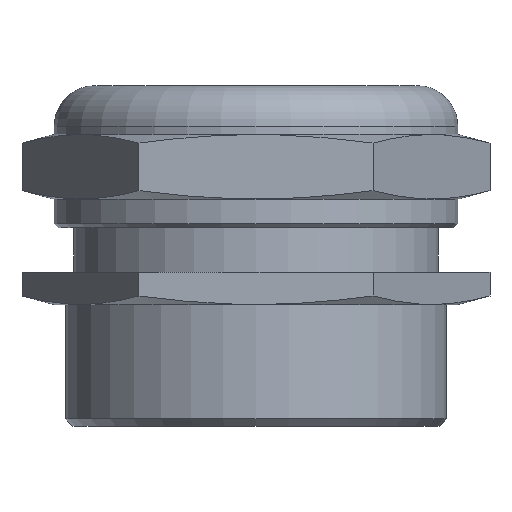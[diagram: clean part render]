
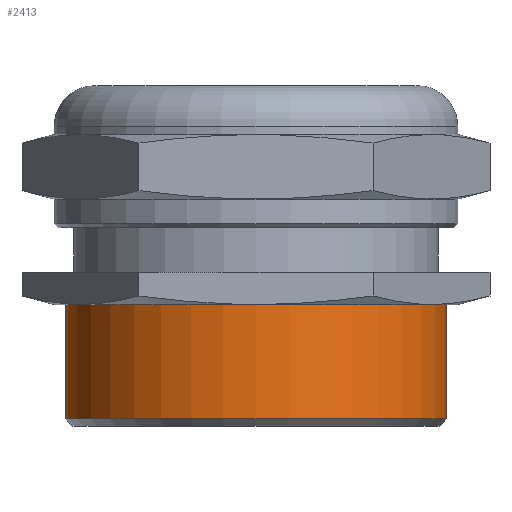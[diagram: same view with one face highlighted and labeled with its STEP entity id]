
A CAD part, left-side view. The second image highlights one B-rep face of the part: STEP entity #2413.
In plain terms, the highlighted cylindrical face has radius 23.5 mm (diameter 47 mm), a partial arc.
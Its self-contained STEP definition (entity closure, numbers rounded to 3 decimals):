
#1295 = CARTESIAN_POINT ( 'NONE',  ( 0., 23.5, 0.9 ) ) ;
#1300 = CARTESIAN_POINT ( 'NONE',  ( 0., -23.5, 15. ) ) ;
#1305 = DIRECTION ( 'NONE',  ( 0., 0., -1. ) ) ;
#1306 = VECTOR ( 'NONE', #1305, 1000. ) ;
#1307 = CARTESIAN_POINT ( 'NONE',  ( 0., -23.5, 0. ) ) ;
#1308 = LINE ( 'NONE', #1307, #1306 ) ;
#1317 = CARTESIAN_POINT ( 'NONE',  ( 0., -23.5, 0.9 ) ) ;
#1325 = CARTESIAN_POINT ( 'NONE',  ( 0., 23.5, 15. ) ) ;
#1715 = LINE ( 'NONE', #1732, #1731 ) ;
#1730 = DIRECTION ( 'NONE',  ( 0., 0., -1. ) ) ;
#1731 = VECTOR ( 'NONE', #1730, 1000. ) ;
#1732 = CARTESIAN_POINT ( 'NONE',  ( 0., 23.5, 0. ) ) ;
#1798 = DIRECTION ( 'NONE',  ( 0., 1., 0. ) ) ;
#1799 = DIRECTION ( 'NONE',  ( 0., 0., -1. ) ) ;
#1800 = AXIS2_PLACEMENT_3D ( 'NONE', #1806, #1799, #1798 ) ;
#1801 = CIRCLE ( 'NONE', #1800, 23.5 ) ;
#1806 = CARTESIAN_POINT ( 'NONE',  ( 0., 0., 15. ) ) ;
#1827 = DIRECTION ( 'NONE',  ( 0., 1., 0. ) ) ;
#1828 = DIRECTION ( 'NONE',  ( 0., 0., -1. ) ) ;
#1829 = CARTESIAN_POINT ( 'NONE',  ( 0., 0., 0. ) ) ;
#1830 = AXIS2_PLACEMENT_3D ( 'NONE', #1829, #1828, #1827 ) ;
#1840 = CYLINDRICAL_SURFACE ( 'NONE', #1830, 23.5 ) ;
#1841 = FACE_OUTER_BOUND ( 'NONE', #2414, .T. ) ;
#1877 = DIRECTION ( 'NONE',  ( 0., 1., 0. ) ) ;
#1897 = DIRECTION ( 'NONE',  ( 0., 0., -1. ) ) ;
#1898 = CARTESIAN_POINT ( 'NONE',  ( 0., 0., 0.9 ) ) ;
#1899 = AXIS2_PLACEMENT_3D ( 'NONE', #1898, #1897, #1877 ) ;
#1900 = CIRCLE ( 'NONE', #1899, 23.5 ) ;
#2321 = VERTEX_POINT ( 'NONE', #1295 ) ;
#2332 = VERTEX_POINT ( 'NONE', #1300 ) ;
#2334 = EDGE_CURVE ( 'NONE', #2332, #2336, #1308, .T. ) ;
#2336 = VERTEX_POINT ( 'NONE', #1317 ) ;
#2338 = VERTEX_POINT ( 'NONE', #1325 ) ;
#2357 = EDGE_CURVE ( 'NONE', #2338, #2321, #1715, .T. ) ;
#2388 = EDGE_CURVE ( 'NONE', #2336, #2321, #1900, .T. ) ;
#2393 = ORIENTED_EDGE ( 'NONE', *, *, #2334, .F. ) ;
#2403 = ORIENTED_EDGE ( 'NONE', *, *, #2357, .T. ) ;
#2404 = ORIENTED_EDGE ( 'NONE', *, *, #2388, .F. ) ;
#2411 = ORIENTED_EDGE ( 'NONE', *, *, #2424, .T. ) ;
#2413 = ADVANCED_FACE ( 'NONE', ( #1841 ), #1840, .T. ) ;
#2414 = EDGE_LOOP ( 'NONE', ( #2393, #2411, #2403, #2404 ) ) ;
#2424 = EDGE_CURVE ( 'NONE', #2332, #2338, #1801, .T. ) ;
